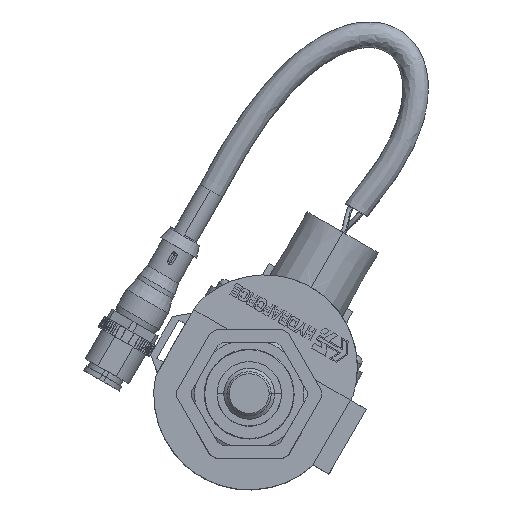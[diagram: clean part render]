
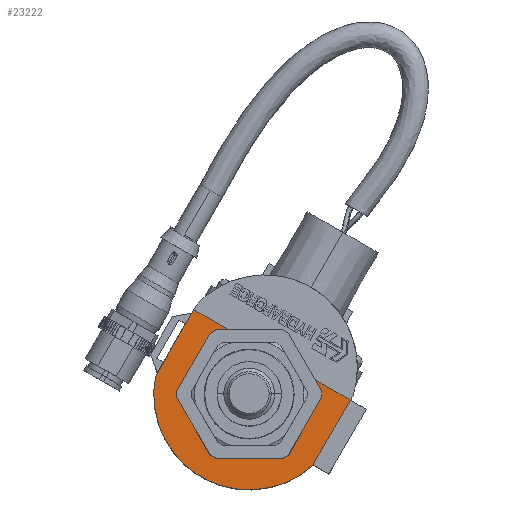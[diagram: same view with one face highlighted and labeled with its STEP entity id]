
A CAD part, top view. The second image highlights one B-rep face of the part: STEP entity #23222.
In plain terms, the highlighted planar face has unit normal (0, 0, 1).
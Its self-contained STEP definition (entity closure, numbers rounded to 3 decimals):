
#5439=DIRECTION('',(-1.,0.,0.));
#5440=VECTOR('',#5439,11.062);
#5441=CARTESIAN_POINT('',(-11.214,11.252,24.384));
#5442=LINE('',#5441,#5440);
#7734=CARTESIAN_POINT('',(0.,0.,24.384));
#7735=DIRECTION('',(0.,0.,1.));
#7736=DIRECTION('',(-0.803,0.596,0.));
#7737=AXIS2_PLACEMENT_3D('',#7734,#7735,#7736);
#7739=CARTESIAN_POINT('',(0.,0.,24.384));
#7740=DIRECTION('',(0.,0.,1.));
#7741=DIRECTION('',(-1.,0.,0.));
#7742=AXIS2_PLACEMENT_3D('',#7739,#7740,#7741);
#7744=CARTESIAN_POINT('',(0.,0.,24.384));
#7745=DIRECTION('',(0.,0.,1.));
#7746=DIRECTION('',(1.,0.,0.));
#7747=AXIS2_PLACEMENT_3D('',#7744,#7745,#7746);
#7749=DIRECTION('',(0.,1.,0.));
#7750=VECTOR('',#7749,2.921);
#7751=CARTESIAN_POINT('',(11.214,8.331,24.384));
#7752=LINE('',#7751,#7750);
#7753=DIRECTION('',(1.,0.,0.));
#7754=VECTOR('',#7753,11.062);
#7755=CARTESIAN_POINT('',(11.214,11.252,24.384));
#7756=LINE('',#7755,#7754);
#7757=DIRECTION('',(0.,-1.,0.));
#7758=VECTOR('',#7757,18.923);
#7759=CARTESIAN_POINT('',(22.276,11.252,24.384));
#7760=LINE('',#7759,#7758);
#7761=CARTESIAN_POINT('',(0.,0.,24.384));
#7762=DIRECTION('',(0.,0.,-1.));
#7763=DIRECTION('',(0.946,-0.326,0.));
#7764=AXIS2_PLACEMENT_3D('',#7761,#7762,#7763);
#7766=DIRECTION('',(0.,1.,0.));
#7767=VECTOR('',#7766,18.923);
#7768=CARTESIAN_POINT('',(-22.276,-7.671,24.384));
#7769=LINE('',#7768,#7767);
#7770=DIRECTION('',(0.,-1.,0.));
#7771=VECTOR('',#7770,2.921);
#7772=CARTESIAN_POINT('',(-11.214,11.252,24.384));
#7773=LINE('',#7772,#7771);
#19162=CARTESIAN_POINT('',(11.214,11.252,24.384));
#19163=CARTESIAN_POINT('',(-11.214,11.252,24.384));
#19164=VERTEX_POINT('',#19162);
#19165=VERTEX_POINT('',#19163);
#19166=CARTESIAN_POINT('',(-22.276,11.252,24.384));
#19167=VERTEX_POINT('',#19166);
#19175=CARTESIAN_POINT('',(22.276,11.252,24.384));
#19176=VERTEX_POINT('',#19175);
#19446=CARTESIAN_POINT('',(-11.214,8.331,24.384));
#19448=VERTEX_POINT('',#19446);
#19455=CARTESIAN_POINT('',(11.214,8.331,24.384));
#19456=VERTEX_POINT('',#19455);
#19644=CARTESIAN_POINT('',(-13.97,0.,24.384));
#19646=VERTEX_POINT('',#19644);
#19685=CARTESIAN_POINT('',(13.97,0.,24.384));
#19686=VERTEX_POINT('',#19685);
#19797=CARTESIAN_POINT('',(22.276,-7.671,24.384));
#19798=VERTEX_POINT('',#19797);
#19799=CARTESIAN_POINT('',(-22.276,-7.671,24.384));
#19800=VERTEX_POINT('',#19799);
#23201=CARTESIAN_POINT('',(0.,11.252,24.384));
#23202=DIRECTION('',(0.,0.,-1.));
#23203=DIRECTION('',(0.,1.,0.));
#23204=AXIS2_PLACEMENT_3D('',#23201,#23202,#23203);
#23205=PLANE('',#23204);
#23206=ORIENTED_EDGE('',*,*,#23086,.T.);
#23207=ORIENTED_EDGE('',*,*,#22909,.T.);
#23208=ORIENTED_EDGE('',*,*,#23030,.T.);
#23210=ORIENTED_EDGE('',*,*,#23209,.T.);
#23211=ORIENTED_EDGE('',*,*,#21999,.T.);
#23213=ORIENTED_EDGE('',*,*,#23212,.T.);
#23215=ORIENTED_EDGE('',*,*,#23214,.T.);
#23217=ORIENTED_EDGE('',*,*,#23216,.T.);
#23218=ORIENTED_EDGE('',*,*,#21987,.F.);
#23219=ORIENTED_EDGE('',*,*,#22361,.T.);
#23220=EDGE_LOOP('',(#23206,#23207,#23208,#23210,#23211,#23213,#23215,#23217,
#23218,#23219));
#23221=FACE_OUTER_BOUND('',#23220,.F.);
#23222=ADVANCED_FACE('',(#23221),#23205,.F.);
#7738=CIRCLE('',#7737,13.97);
#7743=CIRCLE('',#7742,13.97);
#7748=CIRCLE('',#7747,13.97);
#7765=CIRCLE('',#7764,23.56);
#21987=EDGE_CURVE('',#19165,#19167,#5442,.T.);
#21999=EDGE_CURVE('',#19164,#19176,#7756,.T.);
#22361=EDGE_CURVE('',#19165,#19448,#7773,.T.);
#22909=EDGE_CURVE('',#19646,#19686,#7743,.T.);
#23030=EDGE_CURVE('',#19686,#19456,#7748,.T.);
#23086=EDGE_CURVE('',#19448,#19646,#7738,.T.);
#23209=EDGE_CURVE('',#19456,#19164,#7752,.T.);
#23212=EDGE_CURVE('',#19176,#19798,#7760,.T.);
#23214=EDGE_CURVE('',#19798,#19800,#7765,.T.);
#23216=EDGE_CURVE('',#19800,#19167,#7769,.T.);
